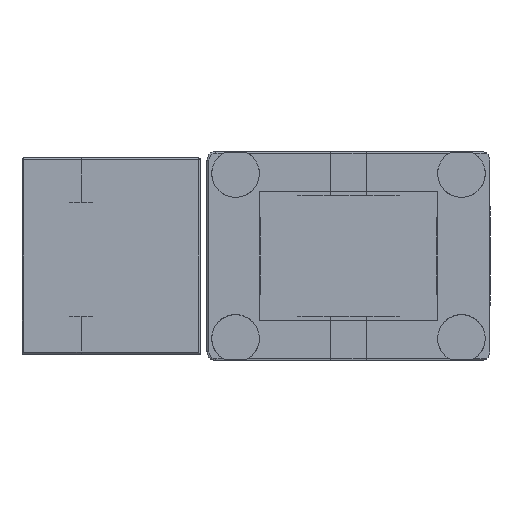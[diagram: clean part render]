
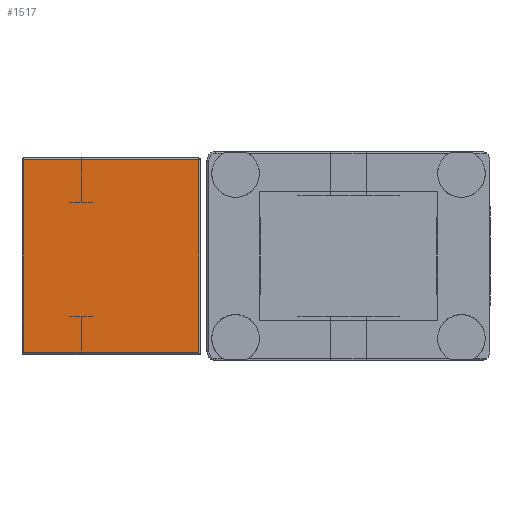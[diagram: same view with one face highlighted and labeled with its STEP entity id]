
A CAD part, left-side view. The second image highlights one B-rep face of the part: STEP entity #1517.
In plain terms, the highlighted planar face has unit normal (-1, 0, 0).
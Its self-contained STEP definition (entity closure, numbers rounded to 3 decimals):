
#27 = ORIENTED_EDGE ( 'NONE', *, *, #5436, .T. ) ;
#94 = VECTOR ( 'NONE', #3045, 1000. ) ;
#422 = PLANE ( 'NONE',  #7801 ) ;
#502 = CARTESIAN_POINT ( 'NONE',  ( -38., 51.55, 10.8 ) ) ;
#505 = ORIENTED_EDGE ( 'NONE', *, *, #7806, .T. ) ;
#678 = CARTESIAN_POINT ( 'NONE',  ( -38., 51.55, -10.8 ) ) ;
#1349 = VECTOR ( 'NONE', #1978, 1000. ) ;
#1517 = ADVANCED_FACE ( 'NONE', ( #2103 ), #422, .T. ) ;
#1978 = DIRECTION ( 'NONE',  ( 0., 0., 1. ) ) ;
#2103 = FACE_OUTER_BOUND ( 'NONE', #2807, .T. ) ;
#2445 = CARTESIAN_POINT ( 'NONE',  ( -38., 31.95, -10.8 ) ) ;
#2609 = VECTOR ( 'NONE', #5147, 1000. ) ;
#2807 = EDGE_LOOP ( 'NONE', ( #7109, #9264, #505, #27 ) ) ;
#3040 = CARTESIAN_POINT ( 'NONE',  ( -38., 51.55, -10. ) ) ;
#3045 = DIRECTION ( 'NONE',  ( 0., -1., 0. ) ) ;
#3971 = VERTEX_POINT ( 'NONE', #2445 ) ;
#4261 = VECTOR ( 'NONE', #6368, 1000. ) ;
#4488 = LINE ( 'NONE', #3040, #2609 ) ;
#4864 = CARTESIAN_POINT ( 'NONE',  ( -38., 51.75, 10.8 ) ) ;
#5147 = DIRECTION ( 'NONE',  ( 0., 0., -1. ) ) ;
#5380 = DIRECTION ( 'NONE',  ( 0., 0., 1. ) ) ;
#5436 = EDGE_CURVE ( 'NONE', #7187, #6440, #7085, .T. ) ;
#5627 = EDGE_CURVE ( 'NONE', #6440, #6519, #4488, .T. ) ;
#5788 = LINE ( 'NONE', #7439, #94 ) ;
#6172 = CARTESIAN_POINT ( 'NONE',  ( -38., 49.75, -10. ) ) ;
#6368 = DIRECTION ( 'NONE',  ( 0., 1., 0. ) ) ;
#6440 = VERTEX_POINT ( 'NONE', #502 ) ;
#6519 = VERTEX_POINT ( 'NONE', #678 ) ;
#6885 = DIRECTION ( 'NONE',  ( -1., 0., 0. ) ) ;
#6938 = LINE ( 'NONE', #9123, #1349 ) ;
#7085 = LINE ( 'NONE', #4864, #4261 ) ;
#7109 = ORIENTED_EDGE ( 'NONE', *, *, #5627, .T. ) ;
#7187 = VERTEX_POINT ( 'NONE', #7291 ) ;
#7291 = CARTESIAN_POINT ( 'NONE',  ( -38., 31.95, 10.8 ) ) ;
#7439 = CARTESIAN_POINT ( 'NONE',  ( -38., 31.75, -10.8 ) ) ;
#7801 = AXIS2_PLACEMENT_3D ( 'NONE', #6172, #6885, #5380 ) ;
#7806 = EDGE_CURVE ( 'NONE', #3971, #7187, #6938, .T. ) ;
#8877 = EDGE_CURVE ( 'NONE', #6519, #3971, #5788, .T. ) ;
#9123 = CARTESIAN_POINT ( 'NONE',  ( -38., 31.95, -10. ) ) ;
#9264 = ORIENTED_EDGE ( 'NONE', *, *, #8877, .T. ) ;
